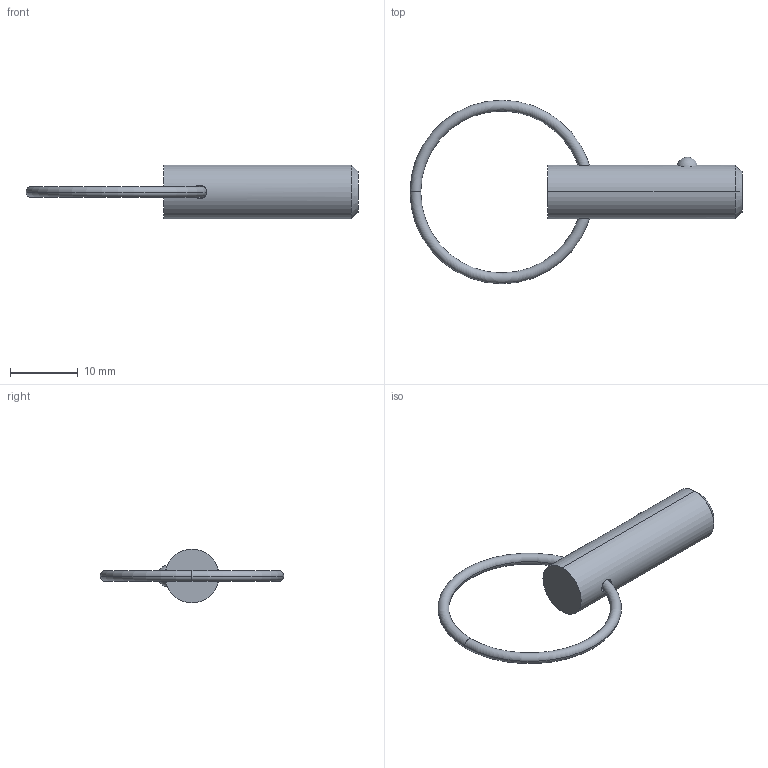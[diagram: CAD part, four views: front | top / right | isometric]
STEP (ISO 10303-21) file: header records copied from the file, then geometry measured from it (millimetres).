
FILE_DESCRIPTION (( 'STEP AP203' ), '1' );
FILE_NAME ('33012.W3105.step', '2024-11-01T14:07:52', ( '' ), ( '' ), 'SwSTEP 2.0', 'SolidWorks 2019', '' );
FILE_SCHEMA (( 'CONFIG_CONTROL_DESIGN' ));
Length unit declared in the file: millimetre
Products named in the file (3): Part1_33012.W3105; Part2_33012.W3105; 33012.W3105
Assembly tree (2 placements, depth 2):
  33012.W3105
    Part1_33012.W3105
    Part2_33012.W3105
Bounding box: 48.83 x 26.99 x 7.94 mm (x, y, z)
Volume: 1542.5 mm3; surface area: 1242.5 mm2
Topology: 2 solids, 2 shells, 16 faces, 31 edges, 18 vertices
Faces by surface type: torus 8, sphere 2, cone 2, cylinder 2, plane 2
Entity records: 829 total; most frequent: CARTESIAN_POINT 186, DIRECTION 88, ORIENTED_EDGE 62, AXIS2_PLACEMENT_3D 42, EDGE_CURVE 31, PERSON_AND_ORGANIZATION 26, CIRCLE 21, LOCAL_TIME 19
